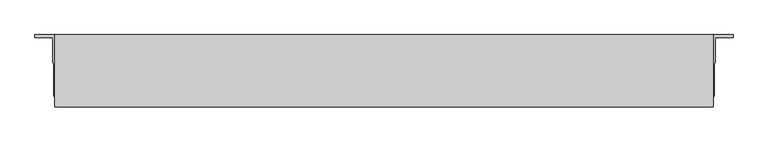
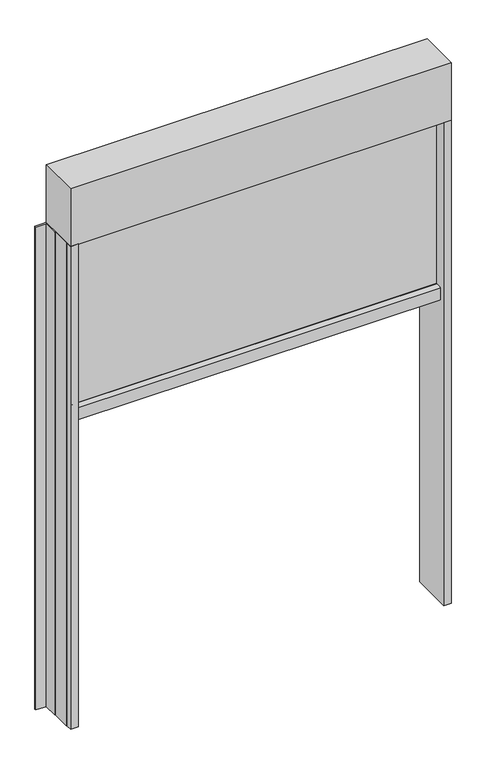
"""IFC4 building model written with IfcOpenShell, lengths in millimetres: proxy geometry, Renson_Fixscreen_Minimal_Single : Recessed - Front of the window - Medium - Access downwards - Fabric away from the window."""

from ifc_helpers import new_model, si_unit, point, frame, frame_2d, origin, origin_with_axes, place, context, project, spatial, polyline, circle_curve, trimmed, segment, composite_curve, outline, extrude, source, transform, mapped, element, save


def generic_models_294ff030(model_context):
    return source(origin(), model_context, "Body", "SweptSolid", [
        extrude(outline(polyline([(-480.0, 693.5958591), (-480.0, 583.5959909), (-500.0, 583.5959909), (-500.0, 598.3306743), (-501.7, 600.8591058), (-501.7, 648.8596455), (-503.0, 650.9880726), (-503.0, 689.6512978), (-529.9999827, 689.6512978), (-529.9999827, 693.5958591), (-480.0, 693.5958591)])), origin_with_axes(), (0.0, 0.0, 1.0), 1340.0),
        extrude(outline(polyline([(480.0, 693.5958591), (529.9999827, 693.5958591), (529.9999827, 689.6512978), (503.0, 689.6512978), (503.0, 650.9880726), (501.7, 648.8596455), (501.7, 600.8591058), (500.0, 598.3306743), (500.0, 583.5959909), (480.0, 583.5959909), (480.0, 693.5958591)])), origin_with_axes(), (0.0, 0.0, 1.0), 1340.0),
        extrude(outline(composite_curve([segment(polyline([(638.5709909, 840.0), (598.0710943, 840.0), (598.0710943, 874.1156826), (615.1952038, 875.0000198)]), True, "CONTINUOUS"), segment(trimmed(circle_curve(frame_2d((615.2209909, 874.5006852)), 0.5), [point((615.1952038, 875.0000198))], [point((615.7209909, 874.5006852))], False, "CARTESIAN"), True, "CONTINUOUS"), segment(polyline([(615.7209909, 874.5006852), (615.7209909, 873.5367989), (614.4558525, 873.5367989), (615.196156, 869.0119223)]), True, "CONTINUOUS"), segment(trimmed(circle_curve(frame_2d((575.7209909, 862.5534911)), 40.0), [point((615.196156, 869.0119223))], [point((615.7209909, 862.5534911))], False, "CARTESIAN"), True, "CONTINUOUS"), segment(polyline([(615.7209909, 862.5534911), (615.7209909, 854.5006852)]), True, "CONTINUOUS"), segment(trimmed(circle_curve(frame_2d((617.7209909, 854.5006852)), 2.0), [point((615.7209909, 854.5006852))], [point((617.7209909, 852.5006852))], True, "CARTESIAN"), True, "CONTINUOUS"), segment(polyline([(617.7209909, 852.5006852), (619.4209909, 852.5006852)]), True, "CONTINUOUS"), segment(trimmed(circle_curve(frame_2d((619.4209909, 854.5006852)), 2.0), [point((619.4209909, 852.5006852))], [point((621.4209909, 854.5006852))], True, "CARTESIAN"), True, "CONTINUOUS"), segment(polyline([(621.4209909, 854.5006852), (621.4209909, 862.5534911)]), True, "CONTINUOUS"), segment(trimmed(circle_curve(frame_2d((661.4209909, 862.5534911)), 40.0), [point((621.4209909, 862.5534911))], [point((621.9458257, 869.0119223))], False, "CARTESIAN"), True, "CONTINUOUS"), segment(polyline([(621.9458257, 869.0119223), (622.6861292, 873.5367989), (621.4209909, 873.5367989), (621.4209909, 874.5006852)]), True, "CONTINUOUS"), segment(trimmed(circle_curve(frame_2d((621.9209909, 874.5006852)), 0.5), [point((621.4209909, 874.5006852))], [point((621.9475541, 874.9999791))], False, "CARTESIAN"), True, "CONTINUOUS"), segment(polyline([(621.9475541, 874.9999791), (638.5709909, 874.1156826), (638.5709909, 840.0)]), True, "CONTINUOUS")], self_intersect=False)), frame((-480.0, 0.0, 0.0), z_axis=(1.0, 0.0, 0.0), x_axis=(0.0, 1.0, 0.0)), (0.0, 0.0, 1.0), 960.0),
        extrude(outline(polyline([(-480.0, 620.0709909), (480.0, 620.0709909), (480.0, 617.0709909), (-480.0, 617.0709909), (-480.0, 620.0709909)])), frame((0.0, 0.0, 852.5006852), z_axis=(0.0, 0.0, 1.0), x_axis=(1.0, 0.0, 0.0)), (0.0, 0.0, 1.0), 487.4993148),
        extrude(outline(polyline([(-500.0, 583.5959909), (-500.0, 693.5959909), (500.0, 693.5959909), (500.0, 583.5959909), (-500.0, 583.5959909)])), frame((0.0, 0.0, 1340.0), z_axis=(0.0, 0.0, 1.0), x_axis=(1.0, 0.0, 0.0)), (0.0, 0.0, 1.0), 160.0),
    ])


if __name__ == "__main__":
    model = new_model("IFC4")
    model_context = context("Model", 3, world=origin())
    ifc_project = project(units=[si_unit("LENGTHUNIT", "METRE", prefix="MILLI")], contexts=[model_context])
    site = spatial("IfcSite", under=ifc_project)
    building = spatial("IfcBuilding", under=site)
    placement = place(None, origin())
    generic_models_shape = generic_models_294ff030(model_context)
    element("IfcBuildingElementProxy", 1, Name="Renson_Fixscreen_Minimal_Single : Recessed - Front of the window - Medium - Access downwards - Fabric away from the window", ObjectType="Renson_Fixscreen_Minimal_Single : Recessed - Front of the window - Medium - Access downwards - Fabric away from the window", at=placement, inside=building, context=model_context, shape_type="MappedRepresentation", body=[
        mapped(generic_models_shape, transform((0.0, 0.0, 0.0), x_axis=(1.0, 0.0, 0.0), y_axis=(0.0, 1.0, 0.0), z_axis=(0.0, 0.0, 1.0))),
    ])
    save(model, "model.ifc")
